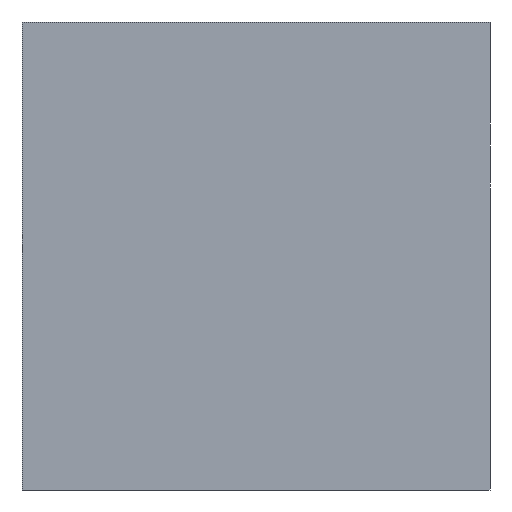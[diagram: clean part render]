
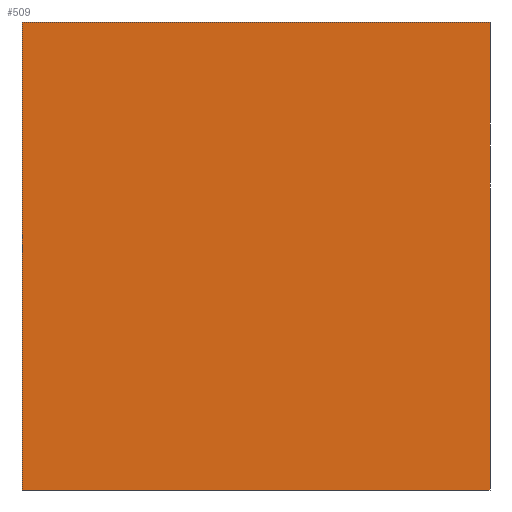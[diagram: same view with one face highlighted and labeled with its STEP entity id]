
A CAD part, left-side view. The second image highlights one B-rep face of the part: STEP entity #509.
In plain terms, the highlighted planar face has unit normal (-1, 0, 0).
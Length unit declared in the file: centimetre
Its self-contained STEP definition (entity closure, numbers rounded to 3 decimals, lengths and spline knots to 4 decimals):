
#4 = AXIS2_PLACEMENT_3D ( 'NONE', #274, #747, #826 ) ;
#13 = ORIENTED_EDGE ( 'NONE', *, *, #400, .T. ) ;
#16 = LINE ( 'NONE', #769, #39 ) ;
#39 = VECTOR ( 'NONE', #676, 100. ) ;
#75 = LINE ( 'NONE', #1031, #775 ) ;
#82 = CARTESIAN_POINT ( 'NONE',  ( 0., 1000., 1000. ) ) ;
#97 = EDGE_CURVE ( 'NONE', #981, #595, #75, .T. ) ;
#178 = DIRECTION ( 'NONE',  ( 0., -1., 0. ) ) ;
#203 = DIRECTION ( 'NONE',  ( 0., 0., -1. ) ) ;
#274 = CARTESIAN_POINT ( 'NONE',  ( 0., 1000., 1000. ) ) ;
#294 = VECTOR ( 'NONE', #203, 100. ) ;
#400 = EDGE_CURVE ( 'NONE', #578, #869, #16, .T. ) ;
#454 = PLANE ( 'NONE',  #4 ) ;
#509 = ADVANCED_FACE ( 'NONE', ( #538 ), #454, .F. ) ;
#538 = FACE_OUTER_BOUND ( 'NONE', #1059, .T. ) ;
#543 = DIRECTION ( 'NONE',  ( 0., 0., -1. ) ) ;
#578 = VERTEX_POINT ( 'NONE', #1179 ) ;
#595 = VERTEX_POINT ( 'NONE', #914 ) ;
#626 = CARTESIAN_POINT ( 'NONE',  ( 0., 0., 1000. ) ) ;
#643 = LINE ( 'NONE', #626, #862 ) ;
#676 = DIRECTION ( 'NONE',  ( 0., -1., 0. ) ) ;
#707 = EDGE_CURVE ( 'NONE', #595, #869, #643, .T. ) ;
#747 = DIRECTION ( 'NONE',  ( 1., 0., 0. ) ) ;
#769 = CARTESIAN_POINT ( 'NONE',  ( 0., 1000., 0. ) ) ;
#775 = VECTOR ( 'NONE', #178, 100. ) ;
#799 = CARTESIAN_POINT ( 'NONE',  ( 0., 1000., 1000. ) ) ;
#826 = DIRECTION ( 'NONE',  ( 0., 0., -1. ) ) ;
#827 = EDGE_CURVE ( 'NONE', #981, #578, #858, .T. ) ;
#850 = ORIENTED_EDGE ( 'NONE', *, *, #707, .F. ) ;
#852 = CARTESIAN_POINT ( 'NONE',  ( 0., 0., 0. ) ) ;
#858 = LINE ( 'NONE', #82, #294 ) ;
#862 = VECTOR ( 'NONE', #543, 100. ) ;
#869 = VERTEX_POINT ( 'NONE', #852 ) ;
#914 = CARTESIAN_POINT ( 'NONE',  ( 0., 0., 1000. ) ) ;
#981 = VERTEX_POINT ( 'NONE', #799 ) ;
#1031 = CARTESIAN_POINT ( 'NONE',  ( 0., 1000., 1000. ) ) ;
#1059 = EDGE_LOOP ( 'NONE', ( #13, #850, #1073, #1135 ) ) ;
#1073 = ORIENTED_EDGE ( 'NONE', *, *, #97, .F. ) ;
#1135 = ORIENTED_EDGE ( 'NONE', *, *, #827, .T. ) ;
#1179 = CARTESIAN_POINT ( 'NONE',  ( 0., 1000., 0. ) ) ;
